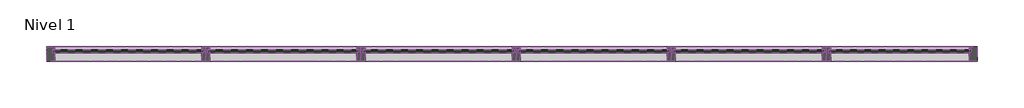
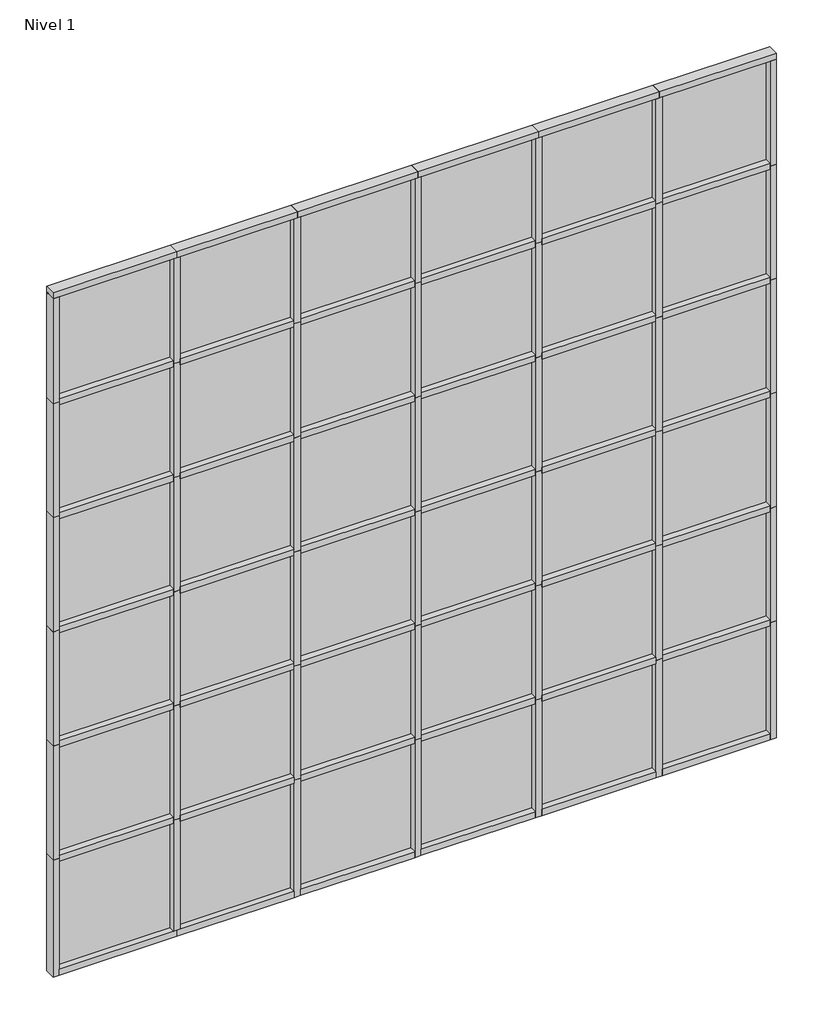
# One storey, part 1 of 6: 84 members, 36 plates.
"""IFC4 building model written with IfcOpenShell, lengths in millimetres."""

from ifc_helpers import new_model, si_unit, origin, place, context, project, spatial, transform, mapped, element, save
from components import montante_rectangular_montante_rectangular_central_30_8_mm_2c331f7a, montante_rectangular_montante_rectangular_central_30_8_mm_c970fd36, montante_rectangular_montante_rectangular_central_30_8_mm_e5800b63, montante_rectangular_montante_rectangular_central_30_8_mm_53c3e57f, montante_rectangular_montante_rectangular_central_30_8_mm_d86f33cf, montante_rectangular_montante_rectangular_central_30_8_mm_2cc1dee6, montante_rectangular_montante_rectangular_extremo_1_30_8_mm_80b4f17c, montante_rectangular_montante_rectangular_extremo_1_30_8_mm_140b2925, montante_rectangular_montante_rectangular_extremo_1_30_8_mm_5074caf2, montante_rectangular_montante_rectangular_extremo_1_30_8_mm_62ab01bd, montante_rectangular_montante_rectangular_extremo_1_30_8_mm_7b62097b, montante_rectangular_montante_rectangular_extremo_1_30_8_mm_4f2bc4b4, plate_e0fb009f, plate_7c9cb06b, plate_31a977c4, plate_dd025fa3

model = new_model("IFC4")

# Units and contexts
model_context = context("Model", 3, world=origin())
ifc_project = project(units=[si_unit("LENGTHUNIT", "METRE", prefix="MILLI")], contexts=[model_context])

# Site, building, storey
site = spatial("IfcSite", under=ifc_project)
building = spatial("IfcBuilding", under=site)
storey = spatial("IfcBuildingStorey", under=building, Name="Nivel 1", Elevation=0.0)

# Members
placement = place(None, origin())
montante_rectangular_montante_rectangular_central_30_8_mm_shape = montante_rectangular_montante_rectangular_central_30_8_mm_2c331f7a(model_context)
element("IfcMember", 1, ObjectType="Montante rectangular : Montante rectangular - Central_30.8 mm", at=placement, inside=storey, context=model_context, shape_type="MappedRepresentation", body=[
    mapped(montante_rectangular_montante_rectangular_central_30_8_mm_shape, transform((-56117.5480244, 4524.4730809, 1540.0), x_axis=(0.0, 0.0, 1.0), y_axis=(0.0, -1.0, 0.0), z_axis=(1.0, 0.0, 0.0))),
])
element("IfcMember", 2, ObjectType="Montante rectangular : Montante rectangular - Central_30.8 mm", at=placement, inside=storey, context=model_context, shape_type="MappedRepresentation", body=[
    mapped(montante_rectangular_montante_rectangular_central_30_8_mm_shape, transform((-54617.5480244, 4524.4730809, 1540.0), x_axis=(0.0, 0.0, 1.0), y_axis=(0.0, -1.0, 0.0), z_axis=(1.0, 0.0, 0.0))),
])
element("IfcMember", 3, ObjectType="Montante rectangular : Montante rectangular - Central_30.8 mm", at=placement, inside=storey, context=model_context, shape_type="MappedRepresentation", body=[
    mapped(montante_rectangular_montante_rectangular_central_30_8_mm_shape, transform((-53117.5480244, 4524.4730809, 1540.0), x_axis=(0.0, 0.0, 1.0), y_axis=(0.0, -1.0, 0.0), z_axis=(1.0, 0.0, 0.0))),
])
element("IfcMember", 4, ObjectType="Montante rectangular : Montante rectangular - Central_30.8 mm", at=placement, inside=storey, context=model_context, shape_type="MappedRepresentation", body=[
    mapped(montante_rectangular_montante_rectangular_central_30_8_mm_shape, transform((-51617.5480244, 4524.4730809, 1540.0), x_axis=(0.0, 0.0, 1.0), y_axis=(0.0, -1.0, 0.0), z_axis=(1.0, 0.0, 0.0))),
])
element("IfcMember", 5, ObjectType="Montante rectangular : Montante rectangular - Central_30.8 mm", at=placement, inside=storey, context=model_context, shape_type="MappedRepresentation", body=[
    mapped(montante_rectangular_montante_rectangular_central_30_8_mm_shape, transform((-50117.5480244, 4524.4730809, 1540.0), x_axis=(0.0, 0.0, 1.0), y_axis=(0.0, -1.0, 0.0), z_axis=(1.0, 0.0, 0.0))),
])
element("IfcMember", 6, ObjectType="Montante rectangular : Montante rectangular - Central_30.8 mm", at=placement, inside=storey, context=model_context, shape_type="MappedRepresentation", body=[
    mapped(montante_rectangular_montante_rectangular_central_30_8_mm_shape, transform((-56117.5480244, 4524.4730809, 3040.0), x_axis=(0.0, 0.0, 1.0), y_axis=(0.0, -1.0, 0.0), z_axis=(1.0, 0.0, 0.0))),
])
element("IfcMember", 7, ObjectType="Montante rectangular : Montante rectangular - Central_30.8 mm", at=placement, inside=storey, context=model_context, shape_type="MappedRepresentation", body=[
    mapped(montante_rectangular_montante_rectangular_central_30_8_mm_shape, transform((-54617.5480244, 4524.4730809, 3040.0), x_axis=(0.0, 0.0, 1.0), y_axis=(0.0, -1.0, 0.0), z_axis=(1.0, 0.0, 0.0))),
])
element("IfcMember", 8, ObjectType="Montante rectangular : Montante rectangular - Central_30.8 mm", at=placement, inside=storey, context=model_context, shape_type="MappedRepresentation", body=[
    mapped(montante_rectangular_montante_rectangular_central_30_8_mm_shape, transform((-53117.5480244, 4524.4730809, 3040.0), x_axis=(0.0, 0.0, 1.0), y_axis=(0.0, -1.0, 0.0), z_axis=(1.0, 0.0, 0.0))),
])
element("IfcMember", 9, ObjectType="Montante rectangular : Montante rectangular - Central_30.8 mm", at=placement, inside=storey, context=model_context, shape_type="MappedRepresentation", body=[
    mapped(montante_rectangular_montante_rectangular_central_30_8_mm_shape, transform((-51617.5480244, 4524.4730809, 3040.0), x_axis=(0.0, 0.0, 1.0), y_axis=(0.0, -1.0, 0.0), z_axis=(1.0, 0.0, 0.0))),
])
element("IfcMember", 10, ObjectType="Montante rectangular : Montante rectangular - Central_30.8 mm", at=placement, inside=storey, context=model_context, shape_type="MappedRepresentation", body=[
    mapped(montante_rectangular_montante_rectangular_central_30_8_mm_shape, transform((-50117.5480244, 4524.4730809, 3040.0), x_axis=(0.0, 0.0, 1.0), y_axis=(0.0, -1.0, 0.0), z_axis=(1.0, 0.0, 0.0))),
])
element("IfcMember", 11, ObjectType="Montante rectangular : Montante rectangular - Central_30.8 mm", at=placement, inside=storey, context=model_context, shape_type="MappedRepresentation", body=[
    mapped(montante_rectangular_montante_rectangular_central_30_8_mm_shape, transform((-56117.5480244, 4524.4730809, 4540.0), x_axis=(0.0, 0.0, 1.0), y_axis=(0.0, -1.0, 0.0), z_axis=(1.0, 0.0, 0.0))),
])
element("IfcMember", 12, ObjectType="Montante rectangular : Montante rectangular - Central_30.8 mm", at=placement, inside=storey, context=model_context, shape_type="MappedRepresentation", body=[
    mapped(montante_rectangular_montante_rectangular_central_30_8_mm_shape, transform((-54617.5480244, 4524.4730809, 4540.0), x_axis=(0.0, 0.0, 1.0), y_axis=(0.0, -1.0, 0.0), z_axis=(1.0, 0.0, 0.0))),
])
element("IfcMember", 13, ObjectType="Montante rectangular : Montante rectangular - Central_30.8 mm", at=placement, inside=storey, context=model_context, shape_type="MappedRepresentation", body=[
    mapped(montante_rectangular_montante_rectangular_central_30_8_mm_shape, transform((-53117.5480244, 4524.4730809, 4540.0), x_axis=(0.0, 0.0, 1.0), y_axis=(0.0, -1.0, 0.0), z_axis=(1.0, 0.0, 0.0))),
])
element("IfcMember", 14, ObjectType="Montante rectangular : Montante rectangular - Central_30.8 mm", at=placement, inside=storey, context=model_context, shape_type="MappedRepresentation", body=[
    mapped(montante_rectangular_montante_rectangular_central_30_8_mm_shape, transform((-51617.5480244, 4524.4730809, 4540.0), x_axis=(0.0, 0.0, 1.0), y_axis=(0.0, -1.0, 0.0), z_axis=(1.0, 0.0, 0.0))),
])
element("IfcMember", 15, ObjectType="Montante rectangular : Montante rectangular - Central_30.8 mm", at=placement, inside=storey, context=model_context, shape_type="MappedRepresentation", body=[
    mapped(montante_rectangular_montante_rectangular_central_30_8_mm_shape, transform((-50117.5480244, 4524.4730809, 4540.0), x_axis=(0.0, 0.0, 1.0), y_axis=(0.0, -1.0, 0.0), z_axis=(1.0, 0.0, 0.0))),
])
element("IfcMember", 16, ObjectType="Montante rectangular : Montante rectangular - Central_30.8 mm", at=placement, inside=storey, context=model_context, shape_type="MappedRepresentation", body=[
    mapped(montante_rectangular_montante_rectangular_central_30_8_mm_shape, transform((-56117.5480244, 4524.4730809, 6040.0), x_axis=(0.0, 0.0, 1.0), y_axis=(0.0, -1.0, 0.0), z_axis=(1.0, 0.0, 0.0))),
])
element("IfcMember", 17, ObjectType="Montante rectangular : Montante rectangular - Central_30.8 mm", at=placement, inside=storey, context=model_context, shape_type="MappedRepresentation", body=[
    mapped(montante_rectangular_montante_rectangular_central_30_8_mm_shape, transform((-54617.5480244, 4524.4730809, 6040.0), x_axis=(0.0, 0.0, 1.0), y_axis=(0.0, -1.0, 0.0), z_axis=(1.0, 0.0, 0.0))),
])
element("IfcMember", 18, ObjectType="Montante rectangular : Montante rectangular - Central_30.8 mm", at=placement, inside=storey, context=model_context, shape_type="MappedRepresentation", body=[
    mapped(montante_rectangular_montante_rectangular_central_30_8_mm_shape, transform((-53117.5480244, 4524.4730809, 6040.0), x_axis=(0.0, 0.0, 1.0), y_axis=(0.0, -1.0, 0.0), z_axis=(1.0, 0.0, 0.0))),
])
element("IfcMember", 19, ObjectType="Montante rectangular : Montante rectangular - Central_30.8 mm", at=placement, inside=storey, context=model_context, shape_type="MappedRepresentation", body=[
    mapped(montante_rectangular_montante_rectangular_central_30_8_mm_shape, transform((-51617.5480244, 4524.4730809, 6040.0), x_axis=(0.0, 0.0, 1.0), y_axis=(0.0, -1.0, 0.0), z_axis=(1.0, 0.0, 0.0))),
])
element("IfcMember", 20, ObjectType="Montante rectangular : Montante rectangular - Central_30.8 mm", at=placement, inside=storey, context=model_context, shape_type="MappedRepresentation", body=[
    mapped(montante_rectangular_montante_rectangular_central_30_8_mm_shape, transform((-50117.5480244, 4524.4730809, 6040.0), x_axis=(0.0, 0.0, 1.0), y_axis=(0.0, -1.0, 0.0), z_axis=(1.0, 0.0, 0.0))),
])
element("IfcMember", 21, ObjectType="Montante rectangular : Montante rectangular - Central_30.8 mm", at=placement, inside=storey, context=model_context, shape_type="MappedRepresentation", body=[
    mapped(montante_rectangular_montante_rectangular_central_30_8_mm_shape, transform((-56117.5480244, 4524.4730809, 7540.0), x_axis=(0.0, 0.0, 1.0), y_axis=(0.0, -1.0, 0.0), z_axis=(1.0, 0.0, 0.0))),
])
element("IfcMember", 22, ObjectType="Montante rectangular : Montante rectangular - Central_30.8 mm", at=placement, inside=storey, context=model_context, shape_type="MappedRepresentation", body=[
    mapped(montante_rectangular_montante_rectangular_central_30_8_mm_shape, transform((-54617.5480244, 4524.4730809, 7540.0), x_axis=(0.0, 0.0, 1.0), y_axis=(0.0, -1.0, 0.0), z_axis=(1.0, 0.0, 0.0))),
])
element("IfcMember", 23, ObjectType="Montante rectangular : Montante rectangular - Central_30.8 mm", at=placement, inside=storey, context=model_context, shape_type="MappedRepresentation", body=[
    mapped(montante_rectangular_montante_rectangular_central_30_8_mm_shape, transform((-53117.5480244, 4524.4730809, 7540.0), x_axis=(0.0, 0.0, 1.0), y_axis=(0.0, -1.0, 0.0), z_axis=(1.0, 0.0, 0.0))),
])
element("IfcMember", 24, ObjectType="Montante rectangular : Montante rectangular - Central_30.8 mm", at=placement, inside=storey, context=model_context, shape_type="MappedRepresentation", body=[
    mapped(montante_rectangular_montante_rectangular_central_30_8_mm_shape, transform((-51617.5480244, 4524.4730809, 7540.0), x_axis=(0.0, 0.0, 1.0), y_axis=(0.0, -1.0, 0.0), z_axis=(1.0, 0.0, 0.0))),
])
element("IfcMember", 25, ObjectType="Montante rectangular : Montante rectangular - Central_30.8 mm", at=placement, inside=storey, context=model_context, shape_type="MappedRepresentation", body=[
    mapped(montante_rectangular_montante_rectangular_central_30_8_mm_shape, transform((-50117.5480244, 4524.4730809, 7540.0), x_axis=(0.0, 0.0, 1.0), y_axis=(0.0, -1.0, 0.0), z_axis=(1.0, 0.0, 0.0))),
])
montante_rectangular_montante_rectangular_central_30_8_mm_2_shape = montante_rectangular_montante_rectangular_central_30_8_mm_c970fd36(model_context)
element("IfcMember", 26, ObjectType="Montante rectangular : Montante rectangular - Central_30.8 mm", at=placement, inside=storey, context=model_context, shape_type="MappedRepresentation", body=[
    mapped(montante_rectangular_montante_rectangular_central_30_8_mm_2_shape, transform((-56077.5480244, 4524.4730809, 80.0), x_axis=(1.0, 0.0, 0.0), y_axis=(0.0, -1.0, 0.0), z_axis=(0.0, 0.0, -1.0))),
])
montante_rectangular_montante_rectangular_central_30_8_mm_3_shape = montante_rectangular_montante_rectangular_central_30_8_mm_e5800b63(model_context)
element("IfcMember", 27, ObjectType="Montante rectangular : Montante rectangular - Central_30.8 mm", at=placement, inside=storey, context=model_context, shape_type="MappedRepresentation", body=[
    mapped(montante_rectangular_montante_rectangular_central_30_8_mm_3_shape, transform((-56077.5480244, 4524.4730809, 1540.0), x_axis=(1.0, 0.0, 0.0), y_axis=(0.0, -1.0, 0.0), z_axis=(0.0, 0.0, -1.0))),
])
element("IfcMember", 28, ObjectType="Montante rectangular : Montante rectangular - Central_30.8 mm", at=placement, inside=storey, context=model_context, shape_type="MappedRepresentation", body=[
    mapped(montante_rectangular_montante_rectangular_central_30_8_mm_3_shape, transform((-54577.5480244, 4524.4730809, 1540.0), x_axis=(1.0, 0.0, 0.0), y_axis=(0.0, -1.0, 0.0), z_axis=(0.0, 0.0, -1.0))),
])
element("IfcMember", 29, ObjectType="Montante rectangular : Montante rectangular - Central_30.8 mm", at=placement, inside=storey, context=model_context, shape_type="MappedRepresentation", body=[
    mapped(montante_rectangular_montante_rectangular_central_30_8_mm_3_shape, transform((-53077.5480244, 4524.4730809, 1540.0), x_axis=(1.0, 0.0, 0.0), y_axis=(0.0, -1.0, 0.0), z_axis=(0.0, 0.0, -1.0))),
])
element("IfcMember", 30, ObjectType="Montante rectangular : Montante rectangular - Central_30.8 mm", at=placement, inside=storey, context=model_context, shape_type="MappedRepresentation", body=[
    mapped(montante_rectangular_montante_rectangular_central_30_8_mm_3_shape, transform((-51577.5480244, 4524.4730809, 1540.0), x_axis=(1.0, 0.0, 0.0), y_axis=(0.0, -1.0, 0.0), z_axis=(0.0, 0.0, -1.0))),
])
element("IfcMember", 31, ObjectType="Montante rectangular : Montante rectangular - Central_30.8 mm", at=placement, inside=storey, context=model_context, shape_type="MappedRepresentation", body=[
    mapped(montante_rectangular_montante_rectangular_central_30_8_mm_3_shape, transform((-50077.5480244, 4524.4730809, 1540.0), x_axis=(1.0, 0.0, 0.0), y_axis=(0.0, -1.0, 0.0), z_axis=(0.0, 0.0, -1.0))),
])
element("IfcMember", 32, ObjectType="Montante rectangular : Montante rectangular - Central_30.8 mm", at=placement, inside=storey, context=model_context, shape_type="MappedRepresentation", body=[
    mapped(montante_rectangular_montante_rectangular_central_30_8_mm_3_shape, transform((-56077.5480244, 4524.4730809, 3040.0), x_axis=(1.0, 0.0, 0.0), y_axis=(0.0, -1.0, 0.0), z_axis=(0.0, 0.0, -1.0))),
])
element("IfcMember", 33, ObjectType="Montante rectangular : Montante rectangular - Central_30.8 mm", at=placement, inside=storey, context=model_context, shape_type="MappedRepresentation", body=[
    mapped(montante_rectangular_montante_rectangular_central_30_8_mm_3_shape, transform((-56077.5480244, 4524.4730809, 4540.0), x_axis=(1.0, 0.0, 0.0), y_axis=(0.0, -1.0, 0.0), z_axis=(0.0, 0.0, -1.0))),
])
element("IfcMember", 34, ObjectType="Montante rectangular : Montante rectangular - Central_30.8 mm", at=placement, inside=storey, context=model_context, shape_type="MappedRepresentation", body=[
    mapped(montante_rectangular_montante_rectangular_central_30_8_mm_3_shape, transform((-56077.5480244, 4524.4730809, 6040.0), x_axis=(1.0, 0.0, 0.0), y_axis=(0.0, -1.0, 0.0), z_axis=(0.0, 0.0, -1.0))),
])
element("IfcMember", 35, ObjectType="Montante rectangular : Montante rectangular - Central_30.8 mm", at=placement, inside=storey, context=model_context, shape_type="MappedRepresentation", body=[
    mapped(montante_rectangular_montante_rectangular_central_30_8_mm_3_shape, transform((-54577.5480244, 4524.4730809, 3040.0), x_axis=(1.0, 0.0, 0.0), y_axis=(0.0, -1.0, 0.0), z_axis=(0.0, 0.0, -1.0))),
])
element("IfcMember", 36, ObjectType="Montante rectangular : Montante rectangular - Central_30.8 mm", at=placement, inside=storey, context=model_context, shape_type="MappedRepresentation", body=[
    mapped(montante_rectangular_montante_rectangular_central_30_8_mm_3_shape, transform((-54577.5480244, 4524.4730809, 4540.0), x_axis=(1.0, 0.0, 0.0), y_axis=(0.0, -1.0, 0.0), z_axis=(0.0, 0.0, -1.0))),
])
element("IfcMember", 37, ObjectType="Montante rectangular : Montante rectangular - Central_30.8 mm", at=placement, inside=storey, context=model_context, shape_type="MappedRepresentation", body=[
    mapped(montante_rectangular_montante_rectangular_central_30_8_mm_3_shape, transform((-54577.5480244, 4524.4730809, 6040.0), x_axis=(1.0, 0.0, 0.0), y_axis=(0.0, -1.0, 0.0), z_axis=(0.0, 0.0, -1.0))),
])
element("IfcMember", 38, ObjectType="Montante rectangular : Montante rectangular - Central_30.8 mm", at=placement, inside=storey, context=model_context, shape_type="MappedRepresentation", body=[
    mapped(montante_rectangular_montante_rectangular_central_30_8_mm_3_shape, transform((-53077.5480244, 4524.4730809, 3040.0), x_axis=(1.0, 0.0, 0.0), y_axis=(0.0, -1.0, 0.0), z_axis=(0.0, 0.0, -1.0))),
])
element("IfcMember", 39, ObjectType="Montante rectangular : Montante rectangular - Central_30.8 mm", at=placement, inside=storey, context=model_context, shape_type="MappedRepresentation", body=[
    mapped(montante_rectangular_montante_rectangular_central_30_8_mm_3_shape, transform((-53077.5480244, 4524.4730809, 4540.0), x_axis=(1.0, 0.0, 0.0), y_axis=(0.0, -1.0, 0.0), z_axis=(0.0, 0.0, -1.0))),
])
element("IfcMember", 40, ObjectType="Montante rectangular : Montante rectangular - Central_30.8 mm", at=placement, inside=storey, context=model_context, shape_type="MappedRepresentation", body=[
    mapped(montante_rectangular_montante_rectangular_central_30_8_mm_3_shape, transform((-53077.5480244, 4524.4730809, 6040.0), x_axis=(1.0, 0.0, 0.0), y_axis=(0.0, -1.0, 0.0), z_axis=(0.0, 0.0, -1.0))),
])
element("IfcMember", 41, ObjectType="Montante rectangular : Montante rectangular - Central_30.8 mm", at=placement, inside=storey, context=model_context, shape_type="MappedRepresentation", body=[
    mapped(montante_rectangular_montante_rectangular_central_30_8_mm_3_shape, transform((-51577.5480244, 4524.4730809, 3040.0), x_axis=(1.0, 0.0, 0.0), y_axis=(0.0, -1.0, 0.0), z_axis=(0.0, 0.0, -1.0))),
])
element("IfcMember", 42, ObjectType="Montante rectangular : Montante rectangular - Central_30.8 mm", at=placement, inside=storey, context=model_context, shape_type="MappedRepresentation", body=[
    mapped(montante_rectangular_montante_rectangular_central_30_8_mm_3_shape, transform((-51577.5480244, 4524.4730809, 4540.0), x_axis=(1.0, 0.0, 0.0), y_axis=(0.0, -1.0, 0.0), z_axis=(0.0, 0.0, -1.0))),
])
element("IfcMember", 43, ObjectType="Montante rectangular : Montante rectangular - Central_30.8 mm", at=placement, inside=storey, context=model_context, shape_type="MappedRepresentation", body=[
    mapped(montante_rectangular_montante_rectangular_central_30_8_mm_3_shape, transform((-51577.5480244, 4524.4730809, 6040.0), x_axis=(1.0, 0.0, 0.0), y_axis=(0.0, -1.0, 0.0), z_axis=(0.0, 0.0, -1.0))),
])
element("IfcMember", 44, ObjectType="Montante rectangular : Montante rectangular - Central_30.8 mm", at=placement, inside=storey, context=model_context, shape_type="MappedRepresentation", body=[
    mapped(montante_rectangular_montante_rectangular_central_30_8_mm_3_shape, transform((-50077.5480244, 4524.4730809, 3040.0), x_axis=(1.0, 0.0, 0.0), y_axis=(0.0, -1.0, 0.0), z_axis=(0.0, 0.0, -1.0))),
])
element("IfcMember", 45, ObjectType="Montante rectangular : Montante rectangular - Central_30.8 mm", at=placement, inside=storey, context=model_context, shape_type="MappedRepresentation", body=[
    mapped(montante_rectangular_montante_rectangular_central_30_8_mm_3_shape, transform((-50077.5480244, 4524.4730809, 4540.0), x_axis=(1.0, 0.0, 0.0), y_axis=(0.0, -1.0, 0.0), z_axis=(0.0, 0.0, -1.0))),
])
element("IfcMember", 46, ObjectType="Montante rectangular : Montante rectangular - Central_30.8 mm", at=placement, inside=storey, context=model_context, shape_type="MappedRepresentation", body=[
    mapped(montante_rectangular_montante_rectangular_central_30_8_mm_3_shape, transform((-50077.5480244, 4524.4730809, 6040.0), x_axis=(1.0, 0.0, 0.0), y_axis=(0.0, -1.0, 0.0), z_axis=(0.0, 0.0, -1.0))),
])
montante_rectangular_montante_rectangular_central_30_8_mm_4_shape = montante_rectangular_montante_rectangular_central_30_8_mm_53c3e57f(model_context)
element("IfcMember", 47, ObjectType="Montante rectangular : Montante rectangular - Central_30.8 mm", at=placement, inside=storey, context=model_context, shape_type="MappedRepresentation", body=[
    mapped(montante_rectangular_montante_rectangular_central_30_8_mm_4_shape, transform((-54577.5480244, 4524.4730809, 0.0), x_axis=(1.0, 0.0, 0.0), y_axis=(0.0, -1.0, 0.0), z_axis=(0.0, 0.0, -1.0))),
])
element("IfcMember", 48, ObjectType="Montante rectangular : Montante rectangular - Central_30.8 mm", at=placement, inside=storey, context=model_context, shape_type="MappedRepresentation", body=[
    mapped(montante_rectangular_montante_rectangular_central_30_8_mm_4_shape, transform((-53077.5480244, 4524.4730809, 0.0), x_axis=(1.0, 0.0, 0.0), y_axis=(0.0, -1.0, 0.0), z_axis=(0.0, 0.0, -1.0))),
])
element("IfcMember", 49, ObjectType="Montante rectangular : Montante rectangular - Central_30.8 mm", at=placement, inside=storey, context=model_context, shape_type="MappedRepresentation", body=[
    mapped(montante_rectangular_montante_rectangular_central_30_8_mm_4_shape, transform((-51577.5480244, 4524.4730809, 0.0), x_axis=(1.0, 0.0, 0.0), y_axis=(0.0, -1.0, 0.0), z_axis=(0.0, 0.0, -1.0))),
])
element("IfcMember", 50, ObjectType="Montante rectangular : Montante rectangular - Central_30.8 mm", at=placement, inside=storey, context=model_context, shape_type="MappedRepresentation", body=[
    mapped(montante_rectangular_montante_rectangular_central_30_8_mm_4_shape, transform((-50077.5480244, 4524.4730809, 0.0), x_axis=(1.0, 0.0, 0.0), y_axis=(0.0, -1.0, 0.0), z_axis=(0.0, 0.0, -1.0))),
])
montante_rectangular_montante_rectangular_central_30_8_mm_5_shape = montante_rectangular_montante_rectangular_central_30_8_mm_d86f33cf(model_context)
element("IfcMember", 51, ObjectType="Montante rectangular : Montante rectangular - Central_30.8 mm", at=placement, inside=storey, context=model_context, shape_type="MappedRepresentation", body=[
    mapped(montante_rectangular_montante_rectangular_central_30_8_mm_5_shape, transform((-48697.5480244, 4524.4730809, 1540.0), x_axis=(0.0, 0.0, 1.0), y_axis=(0.0, -1.0, 0.0), z_axis=(1.0, 0.0, 0.0))),
])
element("IfcMember", 52, ObjectType="Montante rectangular : Montante rectangular - Central_30.8 mm", at=placement, inside=storey, context=model_context, shape_type="MappedRepresentation", body=[
    mapped(montante_rectangular_montante_rectangular_central_30_8_mm_5_shape, transform((-48697.5480244, 4524.4730809, 3040.0), x_axis=(0.0, 0.0, 1.0), y_axis=(0.0, -1.0, 0.0), z_axis=(1.0, 0.0, 0.0))),
])
element("IfcMember", 53, ObjectType="Montante rectangular : Montante rectangular - Central_30.8 mm", at=placement, inside=storey, context=model_context, shape_type="MappedRepresentation", body=[
    mapped(montante_rectangular_montante_rectangular_central_30_8_mm_5_shape, transform((-48697.5480244, 4524.4730809, 4540.0), x_axis=(0.0, 0.0, 1.0), y_axis=(0.0, -1.0, 0.0), z_axis=(1.0, 0.0, 0.0))),
])
element("IfcMember", 54, ObjectType="Montante rectangular : Montante rectangular - Central_30.8 mm", at=placement, inside=storey, context=model_context, shape_type="MappedRepresentation", body=[
    mapped(montante_rectangular_montante_rectangular_central_30_8_mm_5_shape, transform((-48697.5480244, 4524.4730809, 6040.0), x_axis=(0.0, 0.0, 1.0), y_axis=(0.0, -1.0, 0.0), z_axis=(1.0, 0.0, 0.0))),
])
element("IfcMember", 55, ObjectType="Montante rectangular : Montante rectangular - Central_30.8 mm", at=placement, inside=storey, context=model_context, shape_type="MappedRepresentation", body=[
    mapped(montante_rectangular_montante_rectangular_central_30_8_mm_5_shape, transform((-48697.5480244, 4524.4730809, 7540.0), x_axis=(0.0, 0.0, 1.0), y_axis=(0.0, -1.0, 0.0), z_axis=(1.0, 0.0, 0.0))),
])
montante_rectangular_montante_rectangular_central_30_8_mm_6_shape = montante_rectangular_montante_rectangular_central_30_8_mm_2cc1dee6(model_context)
element("IfcMember", 56, ObjectType="Montante rectangular : Montante rectangular - Central_30.8 mm", at=placement, inside=storey, context=model_context, shape_type="MappedRepresentation", body=[
    mapped(montante_rectangular_montante_rectangular_central_30_8_mm_6_shape, transform((-56077.5480244, 4524.4730809, 7540.0), x_axis=(1.0, 0.0, 0.0), y_axis=(0.0, -1.0, 0.0), z_axis=(0.0, 0.0, -1.0))),
])
element("IfcMember", 57, ObjectType="Montante rectangular : Montante rectangular - Central_30.8 mm", at=placement, inside=storey, context=model_context, shape_type="MappedRepresentation", body=[
    mapped(montante_rectangular_montante_rectangular_central_30_8_mm_6_shape, transform((-54577.5480244, 4524.4730809, 7540.0), x_axis=(1.0, 0.0, 0.0), y_axis=(0.0, -1.0, 0.0), z_axis=(0.0, 0.0, -1.0))),
])
element("IfcMember", 58, ObjectType="Montante rectangular : Montante rectangular - Central_30.8 mm", at=placement, inside=storey, context=model_context, shape_type="MappedRepresentation", body=[
    mapped(montante_rectangular_montante_rectangular_central_30_8_mm_6_shape, transform((-53077.5480244, 4524.4730809, 7540.0), x_axis=(1.0, 0.0, 0.0), y_axis=(0.0, -1.0, 0.0), z_axis=(0.0, 0.0, -1.0))),
])
element("IfcMember", 59, ObjectType="Montante rectangular : Montante rectangular - Central_30.8 mm", at=placement, inside=storey, context=model_context, shape_type="MappedRepresentation", body=[
    mapped(montante_rectangular_montante_rectangular_central_30_8_mm_6_shape, transform((-51577.5480244, 4524.4730809, 7540.0), x_axis=(1.0, 0.0, 0.0), y_axis=(0.0, -1.0, 0.0), z_axis=(0.0, 0.0, -1.0))),
])
element("IfcMember", 60, ObjectType="Montante rectangular : Montante rectangular - Central_30.8 mm", at=placement, inside=storey, context=model_context, shape_type="MappedRepresentation", body=[
    mapped(montante_rectangular_montante_rectangular_central_30_8_mm_6_shape, transform((-50077.5480244, 4524.4730809, 7540.0), x_axis=(1.0, 0.0, 0.0), y_axis=(0.0, -1.0, 0.0), z_axis=(0.0, 0.0, -1.0))),
])
montante_rectangular_montante_rectangular_extremo_1_30_8_mm_shape = montante_rectangular_montante_rectangular_extremo_1_30_8_mm_80b4f17c(model_context)
element("IfcMember", 61, ObjectType="Montante rectangular : Montante rectangular - Extremo 1_30.8 mm", at=placement, inside=storey, context=model_context, shape_type="MappedRepresentation", body=[
    mapped(montante_rectangular_montante_rectangular_extremo_1_30_8_mm_shape, transform((-57537.5480244, 4524.4730809, 0.0), x_axis=(0.0, 0.0, -1.0), y_axis=(0.0, -1.0, 0.0), z_axis=(-1.0, 0.0, 0.0))),
])
element("IfcMember", 62, ObjectType="Montante rectangular : Montante rectangular - Extremo 1_30.8 mm", at=placement, inside=storey, context=model_context, shape_type="MappedRepresentation", body=[
    mapped(montante_rectangular_montante_rectangular_extremo_1_30_8_mm_shape, transform((-56077.5480244, 4524.4730809, 0.0), x_axis=(0.0, 0.0, -1.0), y_axis=(0.0, -1.0, 0.0), z_axis=(-1.0, 0.0, 0.0))),
])
montante_rectangular_montante_rectangular_extremo_1_30_8_mm_2_shape = montante_rectangular_montante_rectangular_extremo_1_30_8_mm_140b2925(model_context)
element("IfcMember", 63, ObjectType="Montante rectangular : Montante rectangular - Extremo 1_30.8 mm", at=placement, inside=storey, context=model_context, shape_type="MappedRepresentation", body=[
    mapped(montante_rectangular_montante_rectangular_extremo_1_30_8_mm_2_shape, transform((-54537.5480244, 4524.4730809, 0.0), x_axis=(0.0, 0.0, -1.0), y_axis=(0.0, -1.0, 0.0), z_axis=(-1.0, 0.0, 0.0))),
])
element("IfcMember", 64, ObjectType="Montante rectangular : Montante rectangular - Extremo 1_30.8 mm", at=placement, inside=storey, context=model_context, shape_type="MappedRepresentation", body=[
    mapped(montante_rectangular_montante_rectangular_extremo_1_30_8_mm_2_shape, transform((-53037.5480244, 4524.4730809, 0.0), x_axis=(0.0, 0.0, -1.0), y_axis=(0.0, -1.0, 0.0), z_axis=(-1.0, 0.0, 0.0))),
])
element("IfcMember", 65, ObjectType="Montante rectangular : Montante rectangular - Extremo 1_30.8 mm", at=placement, inside=storey, context=model_context, shape_type="MappedRepresentation", body=[
    mapped(montante_rectangular_montante_rectangular_extremo_1_30_8_mm_2_shape, transform((-51537.5480244, 4524.4730809, 0.0), x_axis=(0.0, 0.0, -1.0), y_axis=(0.0, -1.0, 0.0), z_axis=(-1.0, 0.0, 0.0))),
])
montante_rectangular_montante_rectangular_extremo_1_30_8_mm_3_shape = montante_rectangular_montante_rectangular_extremo_1_30_8_mm_5074caf2(model_context)
element("IfcMember", 66, ObjectType="Montante rectangular : Montante rectangular - Extremo 1_30.8 mm", at=placement, inside=storey, context=model_context, shape_type="MappedRepresentation", body=[
    mapped(montante_rectangular_montante_rectangular_extremo_1_30_8_mm_3_shape, transform((-50037.5480244, 4524.4730809, 0.0), x_axis=(0.0, 0.0, -1.0), y_axis=(0.0, -1.0, 0.0), z_axis=(-1.0, 0.0, 0.0))),
])
montante_rectangular_montante_rectangular_extremo_1_30_8_mm_4_shape = montante_rectangular_montante_rectangular_extremo_1_30_8_mm_62ab01bd(model_context)
element("IfcMember", 67, ObjectType="Montante rectangular : Montante rectangular - Extremo 1_30.8 mm", at=placement, inside=storey, context=model_context, shape_type="MappedRepresentation", body=[
    mapped(montante_rectangular_montante_rectangular_extremo_1_30_8_mm_4_shape, transform((-57617.5480244, 4524.4730809, 8920.0), x_axis=(-1.0, 0.0, 0.0), y_axis=(0.0, -1.0, 0.0), z_axis=(0.0, 0.0, 1.0))),
])
montante_rectangular_montante_rectangular_extremo_1_30_8_mm_5_shape = montante_rectangular_montante_rectangular_extremo_1_30_8_mm_7b62097b(model_context)
element("IfcMember", 68, ObjectType="Montante rectangular : Montante rectangular - Extremo 1_30.8 mm", at=placement, inside=storey, context=model_context, shape_type="MappedRepresentation", body=[
    mapped(montante_rectangular_montante_rectangular_extremo_1_30_8_mm_5_shape, transform((-57617.5480244, 4524.4730809, 1540.0), x_axis=(-1.0, 0.0, 0.0), y_axis=(0.0, -1.0, 0.0), z_axis=(0.0, 0.0, 1.0))),
])
montante_rectangular_montante_rectangular_extremo_1_30_8_mm_6_shape = montante_rectangular_montante_rectangular_extremo_1_30_8_mm_4f2bc4b4(model_context)
element("IfcMember", 69, ObjectType="Montante rectangular : Montante rectangular - Extremo 1_30.8 mm", at=placement, inside=storey, context=model_context, shape_type="MappedRepresentation", body=[
    mapped(montante_rectangular_montante_rectangular_extremo_1_30_8_mm_6_shape, transform((-57617.5480244, 4524.4730809, 3040.0), x_axis=(-1.0, 0.0, 0.0), y_axis=(0.0, -1.0, 0.0), z_axis=(0.0, 0.0, 1.0))),
])
element("IfcMember", 70, ObjectType="Montante rectangular : Montante rectangular - Extremo 1_30.8 mm", at=placement, inside=storey, context=model_context, shape_type="MappedRepresentation", body=[
    mapped(montante_rectangular_montante_rectangular_extremo_1_30_8_mm_6_shape, transform((-57617.5480244, 4524.4730809, 4540.0), x_axis=(-1.0, 0.0, 0.0), y_axis=(0.0, -1.0, 0.0), z_axis=(0.0, 0.0, 1.0))),
])
element("IfcMember", 71, ObjectType="Montante rectangular : Montante rectangular - Extremo 1_30.8 mm", at=placement, inside=storey, context=model_context, shape_type="MappedRepresentation", body=[
    mapped(montante_rectangular_montante_rectangular_extremo_1_30_8_mm_6_shape, transform((-57617.5480244, 4524.4730809, 6040.0), x_axis=(-1.0, 0.0, 0.0), y_axis=(0.0, -1.0, 0.0), z_axis=(0.0, 0.0, 1.0))),
])
element("IfcMember", 72, ObjectType="Montante rectangular : Montante rectangular - Extremo 1_30.8 mm", at=placement, inside=storey, context=model_context, shape_type="MappedRepresentation", body=[
    mapped(montante_rectangular_montante_rectangular_extremo_1_30_8_mm_6_shape, transform((-57617.5480244, 4524.4730809, 7540.0), x_axis=(-1.0, 0.0, 0.0), y_axis=(0.0, -1.0, 0.0), z_axis=(0.0, 0.0, 1.0))),
])
element("IfcMember", 73, ObjectType="Montante rectangular : Montante rectangular - Extremo 2_30.8 mm", at=placement, inside=storey, context=model_context, shape_type="MappedRepresentation", body=[
    mapped(montante_rectangular_montante_rectangular_extremo_1_30_8_mm_shape, transform((-48617.5480244, 4524.4730809, 9000.0), x_axis=(0.0, 0.0, 1.0), y_axis=(0.0, -1.0, 0.0), z_axis=(1.0, 0.0, 0.0))),
])
element("IfcMember", 74, ObjectType="Montante rectangular : Montante rectangular - Extremo 2_30.8 mm", at=placement, inside=storey, context=model_context, shape_type="MappedRepresentation", body=[
    mapped(montante_rectangular_montante_rectangular_extremo_1_30_8_mm_5_shape, transform((-56077.5480244, 4524.4730809, 9000.0), x_axis=(0.0, 0.0, 1.0), y_axis=(0.0, -1.0, 0.0), z_axis=(1.0, 0.0, 0.0))),
])
element("IfcMember", 75, ObjectType="Montante rectangular : Montante rectangular - Extremo 2_30.8 mm", at=placement, inside=storey, context=model_context, shape_type="MappedRepresentation", body=[
    mapped(montante_rectangular_montante_rectangular_extremo_1_30_8_mm_6_shape, transform((-54577.5480244, 4524.4730809, 9000.0), x_axis=(0.0, 0.0, 1.0), y_axis=(0.0, -1.0, 0.0), z_axis=(1.0, 0.0, 0.0))),
])
element("IfcMember", 76, ObjectType="Montante rectangular : Montante rectangular - Extremo 2_30.8 mm", at=placement, inside=storey, context=model_context, shape_type="MappedRepresentation", body=[
    mapped(montante_rectangular_montante_rectangular_extremo_1_30_8_mm_6_shape, transform((-53077.5480244, 4524.4730809, 9000.0), x_axis=(0.0, 0.0, 1.0), y_axis=(0.0, -1.0, 0.0), z_axis=(1.0, 0.0, 0.0))),
])
element("IfcMember", 77, ObjectType="Montante rectangular : Montante rectangular - Extremo 2_30.8 mm", at=placement, inside=storey, context=model_context, shape_type="MappedRepresentation", body=[
    mapped(montante_rectangular_montante_rectangular_extremo_1_30_8_mm_6_shape, transform((-51577.5480244, 4524.4730809, 9000.0), x_axis=(0.0, 0.0, 1.0), y_axis=(0.0, -1.0, 0.0), z_axis=(1.0, 0.0, 0.0))),
])
element("IfcMember", 78, ObjectType="Montante rectangular : Montante rectangular - Extremo 2_30.8 mm", at=placement, inside=storey, context=model_context, shape_type="MappedRepresentation", body=[
    mapped(montante_rectangular_montante_rectangular_extremo_1_30_8_mm_6_shape, transform((-50077.5480244, 4524.4730809, 9000.0), x_axis=(0.0, 0.0, 1.0), y_axis=(0.0, -1.0, 0.0), z_axis=(1.0, 0.0, 0.0))),
])
element("IfcMember", 79, ObjectType="Montante rectangular : Montante rectangular - Extremo 2_30.8 mm", at=placement, inside=storey, context=model_context, shape_type="MappedRepresentation", body=[
    mapped(montante_rectangular_montante_rectangular_extremo_1_30_8_mm_5_shape, transform((-48617.5480244, 4524.4730809, 0.0), x_axis=(1.0, 0.0, 0.0), y_axis=(0.0, -1.0, 0.0), z_axis=(0.0, 0.0, -1.0))),
])
element("IfcMember", 80, ObjectType="Montante rectangular : Montante rectangular - Extremo 2_30.8 mm", at=placement, inside=storey, context=model_context, shape_type="MappedRepresentation", body=[
    mapped(montante_rectangular_montante_rectangular_extremo_1_30_8_mm_6_shape, transform((-48617.5480244, 4524.4730809, 1540.0), x_axis=(1.0, 0.0, 0.0), y_axis=(0.0, -1.0, 0.0), z_axis=(0.0, 0.0, -1.0))),
])
element("IfcMember", 81, ObjectType="Montante rectangular : Montante rectangular - Extremo 2_30.8 mm", at=placement, inside=storey, context=model_context, shape_type="MappedRepresentation", body=[
    mapped(montante_rectangular_montante_rectangular_extremo_1_30_8_mm_6_shape, transform((-48617.5480244, 4524.4730809, 3040.0), x_axis=(1.0, 0.0, 0.0), y_axis=(0.0, -1.0, 0.0), z_axis=(0.0, 0.0, -1.0))),
])
element("IfcMember", 82, ObjectType="Montante rectangular : Montante rectangular - Extremo 2_30.8 mm", at=placement, inside=storey, context=model_context, shape_type="MappedRepresentation", body=[
    mapped(montante_rectangular_montante_rectangular_extremo_1_30_8_mm_6_shape, transform((-48617.5480244, 4524.4730809, 4540.0), x_axis=(1.0, 0.0, 0.0), y_axis=(0.0, -1.0, 0.0), z_axis=(0.0, 0.0, -1.0))),
])
element("IfcMember", 83, ObjectType="Montante rectangular : Montante rectangular - Extremo 2_30.8 mm", at=placement, inside=storey, context=model_context, shape_type="MappedRepresentation", body=[
    mapped(montante_rectangular_montante_rectangular_extremo_1_30_8_mm_6_shape, transform((-48617.5480244, 4524.4730809, 6040.0), x_axis=(1.0, 0.0, 0.0), y_axis=(0.0, -1.0, 0.0), z_axis=(0.0, 0.0, -1.0))),
])
element("IfcMember", 84, ObjectType="Montante rectangular : Montante rectangular - Extremo 2_30.8 mm", at=placement, inside=storey, context=model_context, shape_type="MappedRepresentation", body=[
    mapped(montante_rectangular_montante_rectangular_extremo_1_30_8_mm_4_shape, transform((-48617.5480244, 4524.4730809, 7540.0), x_axis=(1.0, 0.0, 0.0), y_axis=(0.0, -1.0, 0.0), z_axis=(0.0, 0.0, -1.0))),
])

# Plates
plate_shape = plate_e0fb009f(model_context)
element("IfcPlate", 85, ObjectType="2014_Panel-Cristal-MC_SGG_COOL-LITE-XTREME-50-22-DIAMANT : CLIMALIT PLUS con COOL LITE XTREME 50/22 DIAMANT F2 6 (16 argon90%) 44.2 DIAMANT", at=placement, inside=storey, context=model_context, shape_type="MappedRepresentation", body=[
    mapped(plate_shape, transform((-56827.5480244, 4524.4730809, 80.0), x_axis=(1.0, 0.0, 0.0), y_axis=(0.0, 1.0, 0.0), z_axis=(0.0, 0.0, 1.0))),
])
element("IfcPlate", 86, ObjectType="2014_Panel-Cristal-MC_SGG_COOL-LITE-XTREME-50-22-DIAMANT : CLIMALIT PLUS con COOL LITE XTREME 50/22 DIAMANT F2 6 (16 argon90%) 44.2 DIAMANT", at=placement, inside=storey, context=model_context, shape_type="MappedRepresentation", body=[
    mapped(plate_shape, transform((-56827.5480244, 4524.4730809, 1580.0), x_axis=(1.0, 0.0, 0.0), y_axis=(0.0, 1.0, 0.0), z_axis=(0.0, 0.0, 1.0))),
])
element("IfcPlate", 87, ObjectType="2014_Panel-Cristal-MC_SGG_COOL-LITE-XTREME-50-22-DIAMANT : CLIMALIT PLUS con COOL LITE XTREME 50/22 DIAMANT F2 6 (16 argon90%) 44.2 DIAMANT", at=placement, inside=storey, context=model_context, shape_type="MappedRepresentation", body=[
    mapped(plate_shape, transform((-56827.5480244, 4524.4730809, 3080.0), x_axis=(1.0, 0.0, 0.0), y_axis=(0.0, 1.0, 0.0), z_axis=(0.0, 0.0, 1.0))),
])
element("IfcPlate", 88, ObjectType="2014_Panel-Cristal-MC_SGG_COOL-LITE-XTREME-50-22-DIAMANT : CLIMALIT PLUS con COOL LITE XTREME 50/22 DIAMANT F2 6 (16 argon90%) 44.2 DIAMANT", at=placement, inside=storey, context=model_context, shape_type="MappedRepresentation", body=[
    mapped(plate_shape, transform((-56827.5480244, 4524.4730809, 4580.0), x_axis=(1.0, 0.0, 0.0), y_axis=(0.0, 1.0, 0.0), z_axis=(0.0, 0.0, 1.0))),
])
element("IfcPlate", 89, ObjectType="2014_Panel-Cristal-MC_SGG_COOL-LITE-XTREME-50-22-DIAMANT : CLIMALIT PLUS con COOL LITE XTREME 50/22 DIAMANT F2 6 (16 argon90%) 44.2 DIAMANT", at=placement, inside=storey, context=model_context, shape_type="MappedRepresentation", body=[
    mapped(plate_shape, transform((-56827.5480244, 4524.4730809, 6080.0), x_axis=(1.0, 0.0, 0.0), y_axis=(0.0, 1.0, 0.0), z_axis=(0.0, 0.0, 1.0))),
])
element("IfcPlate", 90, ObjectType="2014_Panel-Cristal-MC_SGG_COOL-LITE-XTREME-50-22-DIAMANT : CLIMALIT PLUS con COOL LITE XTREME 50/22 DIAMANT F2 6 (16 argon90%) 44.2 DIAMANT", at=placement, inside=storey, context=model_context, shape_type="MappedRepresentation", body=[
    mapped(plate_shape, transform((-55327.5480244, 4524.4730809, 80.0), x_axis=(1.0, 0.0, 0.0), y_axis=(0.0, 1.0, 0.0), z_axis=(0.0, 0.0, 1.0))),
])
element("IfcPlate", 91, ObjectType="2014_Panel-Cristal-MC_SGG_COOL-LITE-XTREME-50-22-DIAMANT : CLIMALIT PLUS con COOL LITE XTREME 50/22 DIAMANT F2 6 (16 argon90%) 44.2 DIAMANT", at=placement, inside=storey, context=model_context, shape_type="MappedRepresentation", body=[
    mapped(plate_shape, transform((-55327.5480244, 4524.4730809, 1580.0), x_axis=(1.0, 0.0, 0.0), y_axis=(0.0, 1.0, 0.0), z_axis=(0.0, 0.0, 1.0))),
])
element("IfcPlate", 92, ObjectType="2014_Panel-Cristal-MC_SGG_COOL-LITE-XTREME-50-22-DIAMANT : CLIMALIT PLUS con COOL LITE XTREME 50/22 DIAMANT F2 6 (16 argon90%) 44.2 DIAMANT", at=placement, inside=storey, context=model_context, shape_type="MappedRepresentation", body=[
    mapped(plate_shape, transform((-55327.5480244, 4524.4730809, 3080.0), x_axis=(1.0, 0.0, 0.0), y_axis=(0.0, 1.0, 0.0), z_axis=(0.0, 0.0, 1.0))),
])
element("IfcPlate", 93, ObjectType="2014_Panel-Cristal-MC_SGG_COOL-LITE-XTREME-50-22-DIAMANT : CLIMALIT PLUS con COOL LITE XTREME 50/22 DIAMANT F2 6 (16 argon90%) 44.2 DIAMANT", at=placement, inside=storey, context=model_context, shape_type="MappedRepresentation", body=[
    mapped(plate_shape, transform((-55327.5480244, 4524.4730809, 4580.0), x_axis=(1.0, 0.0, 0.0), y_axis=(0.0, 1.0, 0.0), z_axis=(0.0, 0.0, 1.0))),
])
element("IfcPlate", 94, ObjectType="2014_Panel-Cristal-MC_SGG_COOL-LITE-XTREME-50-22-DIAMANT : CLIMALIT PLUS con COOL LITE XTREME 50/22 DIAMANT F2 6 (16 argon90%) 44.2 DIAMANT", at=placement, inside=storey, context=model_context, shape_type="MappedRepresentation", body=[
    mapped(plate_shape, transform((-55327.5480244, 4524.4730809, 6080.0), x_axis=(1.0, 0.0, 0.0), y_axis=(0.0, 1.0, 0.0), z_axis=(0.0, 0.0, 1.0))),
])
element("IfcPlate", 95, ObjectType="2014_Panel-Cristal-MC_SGG_COOL-LITE-XTREME-50-22-DIAMANT : CLIMALIT PLUS con COOL LITE XTREME 50/22 DIAMANT F2 6 (16 argon90%) 44.2 DIAMANT", at=placement, inside=storey, context=model_context, shape_type="MappedRepresentation", body=[
    mapped(plate_shape, transform((-53827.5480244, 4524.4730809, 80.0), x_axis=(1.0, 0.0, 0.0), y_axis=(0.0, 1.0, 0.0), z_axis=(0.0, 0.0, 1.0))),
])
element("IfcPlate", 96, ObjectType="2014_Panel-Cristal-MC_SGG_COOL-LITE-XTREME-50-22-DIAMANT : CLIMALIT PLUS con COOL LITE XTREME 50/22 DIAMANT F2 6 (16 argon90%) 44.2 DIAMANT", at=placement, inside=storey, context=model_context, shape_type="MappedRepresentation", body=[
    mapped(plate_shape, transform((-53827.5480244, 4524.4730809, 1580.0), x_axis=(1.0, 0.0, 0.0), y_axis=(0.0, 1.0, 0.0), z_axis=(0.0, 0.0, 1.0))),
])
element("IfcPlate", 97, ObjectType="2014_Panel-Cristal-MC_SGG_COOL-LITE-XTREME-50-22-DIAMANT : CLIMALIT PLUS con COOL LITE XTREME 50/22 DIAMANT F2 6 (16 argon90%) 44.2 DIAMANT", at=placement, inside=storey, context=model_context, shape_type="MappedRepresentation", body=[
    mapped(plate_shape, transform((-53827.5480244, 4524.4730809, 3080.0), x_axis=(1.0, 0.0, 0.0), y_axis=(0.0, 1.0, 0.0), z_axis=(0.0, 0.0, 1.0))),
])
element("IfcPlate", 98, ObjectType="2014_Panel-Cristal-MC_SGG_COOL-LITE-XTREME-50-22-DIAMANT : CLIMALIT PLUS con COOL LITE XTREME 50/22 DIAMANT F2 6 (16 argon90%) 44.2 DIAMANT", at=placement, inside=storey, context=model_context, shape_type="MappedRepresentation", body=[
    mapped(plate_shape, transform((-53827.5480244, 4524.4730809, 4580.0), x_axis=(1.0, 0.0, 0.0), y_axis=(0.0, 1.0, 0.0), z_axis=(0.0, 0.0, 1.0))),
])
element("IfcPlate", 99, ObjectType="2014_Panel-Cristal-MC_SGG_COOL-LITE-XTREME-50-22-DIAMANT : CLIMALIT PLUS con COOL LITE XTREME 50/22 DIAMANT F2 6 (16 argon90%) 44.2 DIAMANT", at=placement, inside=storey, context=model_context, shape_type="MappedRepresentation", body=[
    mapped(plate_shape, transform((-53827.5480244, 4524.4730809, 6080.0), x_axis=(1.0, 0.0, 0.0), y_axis=(0.0, 1.0, 0.0), z_axis=(0.0, 0.0, 1.0))),
])
element("IfcPlate", 100, ObjectType="2014_Panel-Cristal-MC_SGG_COOL-LITE-XTREME-50-22-DIAMANT : CLIMALIT PLUS con COOL LITE XTREME 50/22 DIAMANT F2 6 (16 argon90%) 44.2 DIAMANT", at=placement, inside=storey, context=model_context, shape_type="MappedRepresentation", body=[
    mapped(plate_shape, transform((-52327.5480244, 4524.4730809, 80.0), x_axis=(1.0, 0.0, 0.0), y_axis=(0.0, 1.0, 0.0), z_axis=(0.0, 0.0, 1.0))),
])
element("IfcPlate", 101, ObjectType="2014_Panel-Cristal-MC_SGG_COOL-LITE-XTREME-50-22-DIAMANT : CLIMALIT PLUS con COOL LITE XTREME 50/22 DIAMANT F2 6 (16 argon90%) 44.2 DIAMANT", at=placement, inside=storey, context=model_context, shape_type="MappedRepresentation", body=[
    mapped(plate_shape, transform((-52327.5480244, 4524.4730809, 1580.0), x_axis=(1.0, 0.0, 0.0), y_axis=(0.0, 1.0, 0.0), z_axis=(0.0, 0.0, 1.0))),
])
element("IfcPlate", 102, ObjectType="2014_Panel-Cristal-MC_SGG_COOL-LITE-XTREME-50-22-DIAMANT : CLIMALIT PLUS con COOL LITE XTREME 50/22 DIAMANT F2 6 (16 argon90%) 44.2 DIAMANT", at=placement, inside=storey, context=model_context, shape_type="MappedRepresentation", body=[
    mapped(plate_shape, transform((-52327.5480244, 4524.4730809, 3080.0), x_axis=(1.0, 0.0, 0.0), y_axis=(0.0, 1.0, 0.0), z_axis=(0.0, 0.0, 1.0))),
])
element("IfcPlate", 103, ObjectType="2014_Panel-Cristal-MC_SGG_COOL-LITE-XTREME-50-22-DIAMANT : CLIMALIT PLUS con COOL LITE XTREME 50/22 DIAMANT F2 6 (16 argon90%) 44.2 DIAMANT", at=placement, inside=storey, context=model_context, shape_type="MappedRepresentation", body=[
    mapped(plate_shape, transform((-52327.5480244, 4524.4730809, 4580.0), x_axis=(1.0, 0.0, 0.0), y_axis=(0.0, 1.0, 0.0), z_axis=(0.0, 0.0, 1.0))),
])
element("IfcPlate", 104, ObjectType="2014_Panel-Cristal-MC_SGG_COOL-LITE-XTREME-50-22-DIAMANT : CLIMALIT PLUS con COOL LITE XTREME 50/22 DIAMANT F2 6 (16 argon90%) 44.2 DIAMANT", at=placement, inside=storey, context=model_context, shape_type="MappedRepresentation", body=[
    mapped(plate_shape, transform((-52327.5480244, 4524.4730809, 6080.0), x_axis=(1.0, 0.0, 0.0), y_axis=(0.0, 1.0, 0.0), z_axis=(0.0, 0.0, 1.0))),
])
element("IfcPlate", 105, ObjectType="2014_Panel-Cristal-MC_SGG_COOL-LITE-XTREME-50-22-DIAMANT : CLIMALIT PLUS con COOL LITE XTREME 50/22 DIAMANT F2 6 (16 argon90%) 44.2 DIAMANT", at=placement, inside=storey, context=model_context, shape_type="MappedRepresentation", body=[
    mapped(plate_shape, transform((-50827.5480244, 4524.4730809, 80.0), x_axis=(1.0, 0.0, 0.0), y_axis=(0.0, 1.0, 0.0), z_axis=(0.0, 0.0, 1.0))),
])
element("IfcPlate", 106, ObjectType="2014_Panel-Cristal-MC_SGG_COOL-LITE-XTREME-50-22-DIAMANT : CLIMALIT PLUS con COOL LITE XTREME 50/22 DIAMANT F2 6 (16 argon90%) 44.2 DIAMANT", at=placement, inside=storey, context=model_context, shape_type="MappedRepresentation", body=[
    mapped(plate_shape, transform((-50827.5480244, 4524.4730809, 1580.0), x_axis=(1.0, 0.0, 0.0), y_axis=(0.0, 1.0, 0.0), z_axis=(0.0, 0.0, 1.0))),
])
element("IfcPlate", 107, ObjectType="2014_Panel-Cristal-MC_SGG_COOL-LITE-XTREME-50-22-DIAMANT : CLIMALIT PLUS con COOL LITE XTREME 50/22 DIAMANT F2 6 (16 argon90%) 44.2 DIAMANT", at=placement, inside=storey, context=model_context, shape_type="MappedRepresentation", body=[
    mapped(plate_shape, transform((-50827.5480244, 4524.4730809, 3080.0), x_axis=(1.0, 0.0, 0.0), y_axis=(0.0, 1.0, 0.0), z_axis=(0.0, 0.0, 1.0))),
])
element("IfcPlate", 108, ObjectType="2014_Panel-Cristal-MC_SGG_COOL-LITE-XTREME-50-22-DIAMANT : CLIMALIT PLUS con COOL LITE XTREME 50/22 DIAMANT F2 6 (16 argon90%) 44.2 DIAMANT", at=placement, inside=storey, context=model_context, shape_type="MappedRepresentation", body=[
    mapped(plate_shape, transform((-50827.5480244, 4524.4730809, 4580.0), x_axis=(1.0, 0.0, 0.0), y_axis=(0.0, 1.0, 0.0), z_axis=(0.0, 0.0, 1.0))),
])
element("IfcPlate", 109, ObjectType="2014_Panel-Cristal-MC_SGG_COOL-LITE-XTREME-50-22-DIAMANT : CLIMALIT PLUS con COOL LITE XTREME 50/22 DIAMANT F2 6 (16 argon90%) 44.2 DIAMANT", at=placement, inside=storey, context=model_context, shape_type="MappedRepresentation", body=[
    mapped(plate_shape, transform((-50827.5480244, 4524.4730809, 6080.0), x_axis=(1.0, 0.0, 0.0), y_axis=(0.0, 1.0, 0.0), z_axis=(0.0, 0.0, 1.0))),
])
plate_2_shape = plate_7c9cb06b(model_context)
element("IfcPlate", 110, ObjectType="2014_Panel-Cristal-MC_SGG_COOL-LITE-XTREME-50-22-DIAMANT : CLIMALIT PLUS con COOL LITE XTREME 50/22 DIAMANT F2 6 (16 argon90%) 44.2 DIAMANT", at=placement, inside=storey, context=model_context, shape_type="MappedRepresentation", body=[
    mapped(plate_2_shape, transform((-56827.5480244, 4524.4730809, 7580.0), x_axis=(1.0, 0.0, 0.0), y_axis=(0.0, 1.0, 0.0), z_axis=(0.0, 0.0, 1.0))),
])
element("IfcPlate", 111, ObjectType="2014_Panel-Cristal-MC_SGG_COOL-LITE-XTREME-50-22-DIAMANT : CLIMALIT PLUS con COOL LITE XTREME 50/22 DIAMANT F2 6 (16 argon90%) 44.2 DIAMANT", at=placement, inside=storey, context=model_context, shape_type="MappedRepresentation", body=[
    mapped(plate_2_shape, transform((-55327.5480244, 4524.4730809, 7580.0), x_axis=(1.0, 0.0, 0.0), y_axis=(0.0, 1.0, 0.0), z_axis=(0.0, 0.0, 1.0))),
])
element("IfcPlate", 112, ObjectType="2014_Panel-Cristal-MC_SGG_COOL-LITE-XTREME-50-22-DIAMANT : CLIMALIT PLUS con COOL LITE XTREME 50/22 DIAMANT F2 6 (16 argon90%) 44.2 DIAMANT", at=placement, inside=storey, context=model_context, shape_type="MappedRepresentation", body=[
    mapped(plate_2_shape, transform((-53827.5480244, 4524.4730809, 7580.0), x_axis=(1.0, 0.0, 0.0), y_axis=(0.0, 1.0, 0.0), z_axis=(0.0, 0.0, 1.0))),
])
element("IfcPlate", 113, ObjectType="2014_Panel-Cristal-MC_SGG_COOL-LITE-XTREME-50-22-DIAMANT : CLIMALIT PLUS con COOL LITE XTREME 50/22 DIAMANT F2 6 (16 argon90%) 44.2 DIAMANT", at=placement, inside=storey, context=model_context, shape_type="MappedRepresentation", body=[
    mapped(plate_2_shape, transform((-52327.5480244, 4524.4730809, 7580.0), x_axis=(1.0, 0.0, 0.0), y_axis=(0.0, 1.0, 0.0), z_axis=(0.0, 0.0, 1.0))),
])
element("IfcPlate", 114, ObjectType="2014_Panel-Cristal-MC_SGG_COOL-LITE-XTREME-50-22-DIAMANT : CLIMALIT PLUS con COOL LITE XTREME 50/22 DIAMANT F2 6 (16 argon90%) 44.2 DIAMANT", at=placement, inside=storey, context=model_context, shape_type="MappedRepresentation", body=[
    mapped(plate_2_shape, transform((-50827.5480244, 4524.4730809, 7580.0), x_axis=(1.0, 0.0, 0.0), y_axis=(0.0, 1.0, 0.0), z_axis=(0.0, 0.0, 1.0))),
])
plate_3_shape = plate_31a977c4(model_context)
element("IfcPlate", 115, ObjectType="2014_Panel-Cristal-MC_SGG_COOL-LITE-XTREME-50-22-DIAMANT : CLIMALIT PLUS con COOL LITE XTREME 50/22 DIAMANT F2 6 (16 argon90%) 44.2 DIAMANT", at=placement, inside=storey, context=model_context, shape_type="MappedRepresentation", body=[
    mapped(plate_3_shape, transform((-49367.5480244, 4524.4730809, 80.0), x_axis=(1.0, 0.0, 0.0), y_axis=(0.0, 1.0, 0.0), z_axis=(0.0, 0.0, 1.0))),
])
element("IfcPlate", 116, ObjectType="2014_Panel-Cristal-MC_SGG_COOL-LITE-XTREME-50-22-DIAMANT : CLIMALIT PLUS con COOL LITE XTREME 50/22 DIAMANT F2 6 (16 argon90%) 44.2 DIAMANT", at=placement, inside=storey, context=model_context, shape_type="MappedRepresentation", body=[
    mapped(plate_3_shape, transform((-49367.5480244, 4524.4730809, 1580.0), x_axis=(1.0, 0.0, 0.0), y_axis=(0.0, 1.0, 0.0), z_axis=(0.0, 0.0, 1.0))),
])
element("IfcPlate", 117, ObjectType="2014_Panel-Cristal-MC_SGG_COOL-LITE-XTREME-50-22-DIAMANT : CLIMALIT PLUS con COOL LITE XTREME 50/22 DIAMANT F2 6 (16 argon90%) 44.2 DIAMANT", at=placement, inside=storey, context=model_context, shape_type="MappedRepresentation", body=[
    mapped(plate_3_shape, transform((-49367.5480244, 4524.4730809, 3080.0), x_axis=(1.0, 0.0, 0.0), y_axis=(0.0, 1.0, 0.0), z_axis=(0.0, 0.0, 1.0))),
])
element("IfcPlate", 118, ObjectType="2014_Panel-Cristal-MC_SGG_COOL-LITE-XTREME-50-22-DIAMANT : CLIMALIT PLUS con COOL LITE XTREME 50/22 DIAMANT F2 6 (16 argon90%) 44.2 DIAMANT", at=placement, inside=storey, context=model_context, shape_type="MappedRepresentation", body=[
    mapped(plate_3_shape, transform((-49367.5480244, 4524.4730809, 4580.0), x_axis=(1.0, 0.0, 0.0), y_axis=(0.0, 1.0, 0.0), z_axis=(0.0, 0.0, 1.0))),
])
element("IfcPlate", 119, ObjectType="2014_Panel-Cristal-MC_SGG_COOL-LITE-XTREME-50-22-DIAMANT : CLIMALIT PLUS con COOL LITE XTREME 50/22 DIAMANT F2 6 (16 argon90%) 44.2 DIAMANT", at=placement, inside=storey, context=model_context, shape_type="MappedRepresentation", body=[
    mapped(plate_3_shape, transform((-49367.5480244, 4524.4730809, 6080.0), x_axis=(1.0, 0.0, 0.0), y_axis=(0.0, 1.0, 0.0), z_axis=(0.0, 0.0, 1.0))),
])
plate_4_shape = plate_dd025fa3(model_context)
element("IfcPlate", 120, ObjectType="2014_Panel-Cristal-MC_SGG_COOL-LITE-XTREME-50-22-DIAMANT : CLIMALIT PLUS con COOL LITE XTREME 50/22 DIAMANT F2 6 (16 argon90%) 44.2 DIAMANT", at=placement, inside=storey, context=model_context, shape_type="MappedRepresentation", body=[
    mapped(plate_4_shape, transform((-49367.5480244, 4524.4730809, 7580.0), x_axis=(1.0, 0.0, 0.0), y_axis=(0.0, 1.0, 0.0), z_axis=(0.0, 0.0, 1.0))),
])

save(model, "model.ifc")
